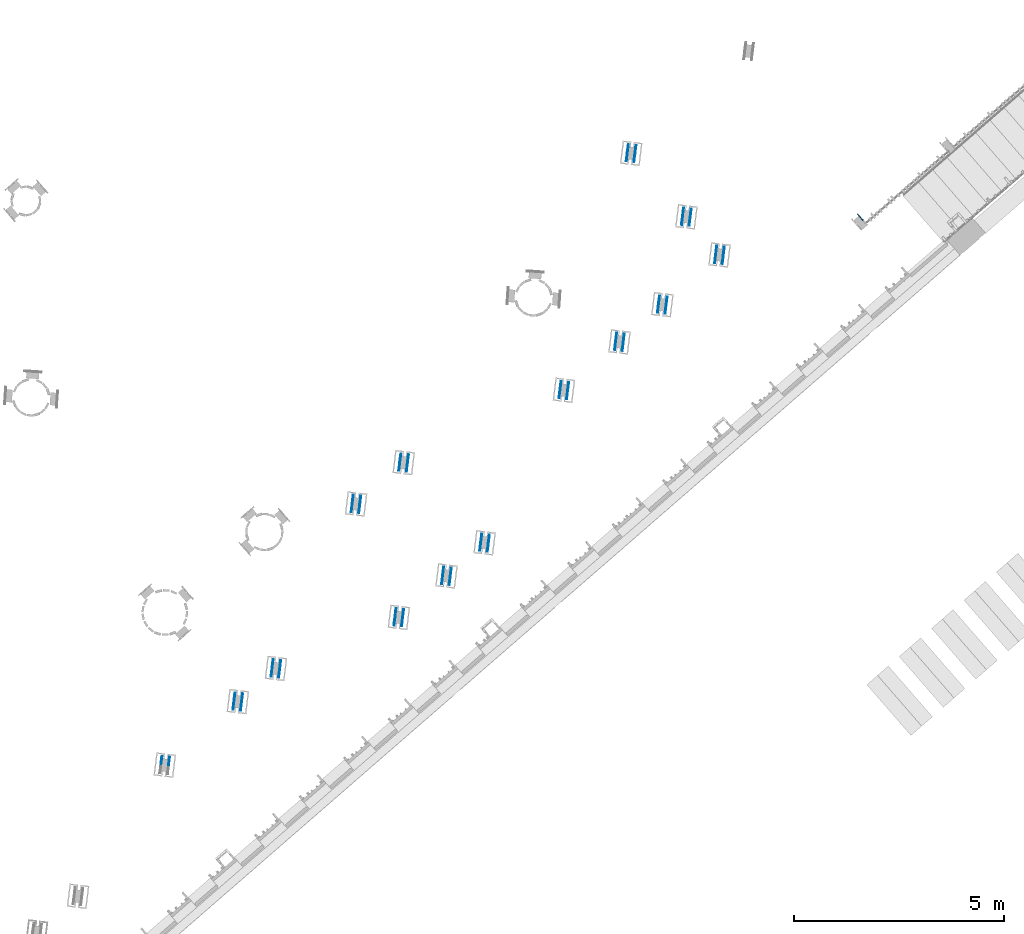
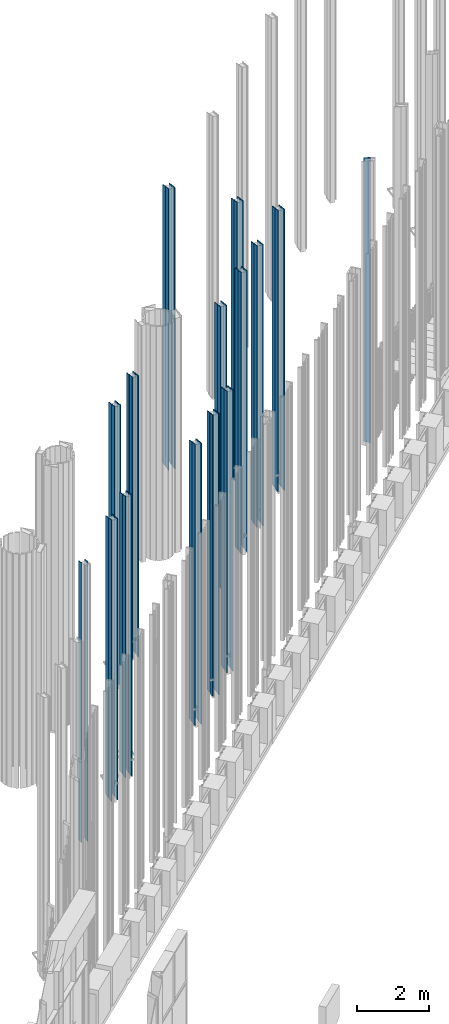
# One storey, part 47 of 390: 55 discrete accessories.
"""IFC2X3 building model written with IfcOpenShell, lengths in millimetres."""

from ifc_helpers import new_model, entity, si_unit, converted_unit, derived_unit, money_unit, direction, frame, origin_with_axes, place, context, subcontext, project, spatial, faceted_brep, source, transform, mapped, material, type_object, element, save


model = new_model("IFC2X3")

# Units and contexts
model_context = context("Model", 3, precision=1e-05, world=origin_with_axes(), true_north=direction((0.0, 1.0)))
body_context = subcontext(model_context, "Body", "Model", "MODEL_VIEW")
ifc_project = project(units=[si_unit("LENGTHUNIT", "METRE", prefix="MILLI"), si_unit("AREAUNIT", "SQUARE_METRE"), si_unit("VOLUMEUNIT", "CUBIC_METRE"), converted_unit("PLANEANGLEUNIT", "DEGREE", entity("IfcPlaneAngleMeasure", 0.0174532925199), si_unit("PLANEANGLEUNIT", "RADIAN"), dimensions=[0, 0, 0, 0, 0, 0, 0]), si_unit("SOLIDANGLEUNIT", "STERADIAN"), money_unit("EUR"), converted_unit("TIMEUNIT", "Year", entity("IfcTimeMeasure", 31556926.0), si_unit("TIMEUNIT", "SECOND"), dimensions=[0, 0, 1, 0, 0, 0, 0]), si_unit("MASSUNIT", "GRAM", prefix="KILO"), si_unit("THERMODYNAMICTEMPERATUREUNIT", "DEGREE_CELSIUS"), si_unit("LUMINOUSINTENSITYUNIT", "LUMEN"), si_unit("ENERGYUNIT", "JOULE", prefix="MEGA"), derived_unit("THERMALCONDUCTANCEUNIT", [(si_unit("POWERUNIT", "WATT"), 1), (si_unit("LENGTHUNIT", "METRE"), -1), (si_unit("THERMODYNAMICTEMPERATUREUNIT", "KELVIN"), -1)]), derived_unit("SPECIFICHEATCAPACITYUNIT", [(si_unit("ENERGYUNIT", "JOULE"), 1), (si_unit("MASSUNIT", "GRAM", prefix="KILO"), -1), (si_unit("THERMODYNAMICTEMPERATUREUNIT", "KELVIN"), -1)]), derived_unit("MASSDENSITYUNIT", [(si_unit("MASSUNIT", "GRAM", prefix="KILO"), 1), (si_unit("VOLUMEUNIT", "CUBIC_METRE"), -1)])], contexts=[model_context])

# Site, building, storey
site_placement = place(None, origin_with_axes())
site = spatial("IfcSite", under=ifc_project, at=site_placement, Name="Site", CompositionType="ELEMENT")
building_placement = place(site_placement, origin_with_axes())
building = spatial("IfcBuilding", under=site, at=building_placement, Name="Building", CompositionType="ELEMENT")
storey_placement = place(building_placement, origin_with_axes())
storey = spatial("IfcBuildingStorey", under=building, at=storey_placement, Name="1 korrus", CompositionType="ELEMENT", Elevation=0.0)

# Discrete accessories
ifc_material = material(Name="GENEERILINE - VÄLINE VOODER")
discrete_accessory_type = type_object("IfcDiscreteAccessoryType", Name="GENEERILINE - VÄLINE VOODER")
shared_shape_1 = source(origin_with_axes(), body_context, "Body", "Brep", [
    faceted_brep([(162190.360855, 119453.798876, 100.0), (162190.360855, 119453.798876, 9600.0), (162168.524839, 119456.480002, 9600.0), (162168.524839, 119456.480002, 100.0), (162214.734723, 119652.308107, 100.0), (162214.734723, 119652.308107, 9546.41016151), (162192.898708, 119654.989232, 9546.41016151), (162192.898708, 119654.989232, 100.0)], [[[0, 1, 2, 3]], [[1, 0, 4, 5]], [[2, 1, 5, 6]], [[3, 2, 6, 7]], [[0, 3, 7, 4]], [[7, 6, 5, 4]]]),
])
for number, where, z_axis, x_axis in (
    (1, (-16876.3828241, -17320.4417606, 0.0), (0.0, 0.0, 1.0), (1.0, 0.0, 0.0)),
    (2, (-9598.60959974, -12583.985607, 0.0), (0.0, 0.0, 1.0), (1.0, 0.0, 0.0)),
    (3, (-10617.467533, -13469.6652962, 0.0), (0.0, 0.0, 1.0), (1.0, 0.0, 0.0)),
    (4, (-8240.13235544, -11403.0793547, 0.0), (0.0, 0.0, 1.0), (1.0, 0.0, 0.0)),
    (5, (-18779.9207954, -21227.6841631, 0.0), (0.0, 0.0, 1.0), (1.0, 0.0, 0.0)),
    (6, (-19685.5722916, -22014.954998, 0.0), (0.0, 0.0, 1.0), (1.0, 0.0, 0.0)),
    (7, (-13822.0171594, -18242.8572777, 0.0), (0.0, 0.0, 1.0), (1.0, 0.0, 0.0)),
    (8, (-15744.3184538, -16336.353217, 0.0), (0.0, 0.0, 1.0), (1.0, 0.0, 0.0)),
    (9, (-11938.2092983, -14617.768597, 0.0), (0.0, 0.0, 1.0), (1.0, 0.0, 0.0)),
    (10, (-14727.6686556, -19030.1281126, 0.0), (0.0, 0.0, 1.0), (1.0, 0.0, 0.0)),
    (11, (-15859.7330258, -20014.2166562, 0.0), (0.0, 0.0, 1.0), (1.0, 0.0, 0.0)),
    (12, (-9027.40319042, -10497.4278583, 0.0), (0.0, 0.0, 1.0), (1.0, 0.0, 0.0)),
    (13, (-10339.5212483, -8988.00869803, 0.0), (0.0, 0.0, 1.0), (1.0, 0.0, 0.0)),
):
    element("IfcDiscreteAccessory", number, at=place(storey_placement, frame(where, z_axis=z_axis, x_axis=x_axis)), inside=storey, type_object=discrete_accessory_type, material=ifc_material, Name="Päikesevarjestuspost", context=body_context, shape_type="MappedRepresentation", body=[
        mapped(shared_shape_1, transform((0.0, 0.0, 0.0))),
    ])
shared_shape_2 = source(origin_with_axes(), body_context, "Body", "Brep", [
    faceted_brep([(162194.117401, 119664.914694, 100.0), (162215.953417, 119662.233568, 100.0), (162215.953417, 119662.233568, 9543.73066959), (162194.117401, 119664.914694, 9543.73066959), (162218.49127, 119863.423924, 100.0), (162240.327285, 119860.742798, 100.0), (162240.327285, 119860.742798, 9490.1408311), (162218.49127, 119863.423924, 9490.1408311)], [[[0, 1, 2, 3]], [[1, 0, 4, 5]], [[2, 1, 5, 6]], [[3, 2, 6, 7]], [[0, 3, 7, 4]], [[4, 7, 6, 5]]]),
])
for number, where, z_axis, x_axis in (
    (14, (-16876.3828241, -17320.4417606, 0.0), (0.0, 0.0, 1.0), (1.0, 0.0, 0.0)),
    (15, (-9598.60959974, -12583.985607, 0.0), (0.0, 0.0, 1.0), (1.0, 0.0, 0.0)),
    (16, (-10617.467533, -13469.6652962, 0.0), (0.0, 0.0, 1.0), (1.0, 0.0, 0.0)),
    (17, (-8240.13235544, -11403.0793547, 0.0), (0.0, 0.0, 1.0), (1.0, 0.0, 0.0)),
    (18, (-18779.9207954, -21227.6841631, 0.0), (0.0, 0.0, 1.0), (1.0, 0.0, 0.0)),
    (19, (-19685.5722916, -22014.954998, 0.0), (0.0, 0.0, 1.0), (1.0, 0.0, 0.0)),
    (20, (-21421.4043259, -23523.8907648, 0.0), (0.0, 0.0, 1.0), (1.0, 0.0, 0.0)),
    (21, (-13822.0171594, -18242.8572777, 0.0), (0.0, 0.0, 1.0), (1.0, 0.0, 0.0)),
    (22, (-15744.3184538, -16336.353217, 0.0), (0.0, 0.0, 1.0), (1.0, 0.0, 0.0)),
    (23, (-11938.2092983, -14617.768597, 0.0), (0.0, 0.0, 1.0), (1.0, 0.0, 0.0)),
    (24, (-14727.6686556, -19030.1281126, 0.0), (0.0, 0.0, 1.0), (1.0, 0.0, 0.0)),
    (25, (-15859.7330258, -20014.2166562, 0.0), (0.0, 0.0, 1.0), (1.0, 0.0, 0.0)),
    (26, (-9027.40319042, -10497.4278583, 0.0), (0.0, 0.0, 1.0), (1.0, 0.0, 0.0)),
    (27, (-10339.5212483, -8988.00869803, 0.0), (0.0, 0.0, 1.0), (1.0, 0.0, 0.0)),
):
    element("IfcDiscreteAccessory", number, at=place(storey_placement, frame(where, z_axis=z_axis, x_axis=x_axis)), inside=storey, type_object=discrete_accessory_type, material=ifc_material, Name="Päikesevarjestuspost", context=body_context, shape_type="MappedRepresentation", body=[
        mapped(shared_shape_2, transform((0.0, 0.0, 0.0))),
    ])
shared_shape_3 = source(origin_with_axes(), body_context, "Body", "Brep", [
    faceted_brep([(-162194.117401, 119664.914694, 100.0), (-162194.117401, 119664.914694, 9543.73066959), (-162215.953417, 119662.233568, 9543.73066959), (-162215.953417, 119662.233568, 100.0), (-162218.49127, 119863.423924, 100.0), (-162218.49127, 119863.423924, 9490.1408311), (-162240.327285, 119860.742798, 9490.1408311), (-162240.327285, 119860.742798, 100.0)], [[[0, 1, 2, 3]], [[0, 4, 5, 1]], [[1, 5, 6, 2]], [[2, 6, 7, 3]], [[3, 7, 4, 0]], [[4, 7, 6, 5]]]),
])
for number, where, z_axis, x_axis in (
    (28, (280205.825252, -49178.2755764, 0.0), (0.0, 0.0, 1.0), (0.970295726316, -0.241921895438, 0.0)),
    (29, (281224.683185, -48292.5958872, 0.0), (0.0, 0.0, 1.0), (0.970295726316, -0.241921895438, 0.0)),
    (30, (282583.160429, -47111.6896349, 0.0), (0.0, 0.0, 1.0), (0.970295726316, -0.241921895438, 0.0)),
    (31, (272043.371989, -56936.2944434, 0.0), (0.0, 0.0, 1.0), (0.970295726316, -0.241921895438, 0.0)),
    (32, (271137.720493, -57723.5652782, 0.0), (0.0, 0.0, 1.0), (0.970295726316, -0.241921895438, 0.0)),
    (33, (269401.888459, -59232.5010451, 0.0), (0.0, 0.0, 1.0), (0.970295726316, -0.241921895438, 0.0)),
    (34, (275078.974331, -52044.9634973, 0.0), (0.0, 0.0, 1.0), (0.970295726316, -0.241921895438, 0.0)),
    (35, (277001.275625, -53951.467558, 0.0), (0.0, 0.0, 1.0), (0.970295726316, -0.241921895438, 0.0)),
    (36, (273946.909961, -53029.0520409, 0.0), (0.0, 0.0, 1.0), (0.970295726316, -0.241921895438, 0.0)),
    (37, (276095.624129, -54738.7383928, 0.0), (0.0, 0.0, 1.0), (0.970295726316, -0.241921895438, 0.0)),
    (38, (274963.559759, -55722.8269364, 0.0), (0.0, 0.0, 1.0), (0.970295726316, -0.241921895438, 0.0)),
    (39, (278885.083486, -50326.3788773, 0.0), (0.0, 0.0, 1.0), (0.970295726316, -0.241921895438, 0.0)),
    (40, (281795.889594, -46206.0381385, 0.0), (0.0, 0.0, 1.0), (0.970295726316, -0.241921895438, 0.0)),
    (41, (280483.771536, -44696.6189783, 0.0), (0.0, 0.0, 1.0), (0.970295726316, -0.241921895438, 0.0)),
):
    element("IfcDiscreteAccessory", number, at=place(storey_placement, frame(where, z_axis=z_axis, x_axis=x_axis)), inside=storey, type_object=discrete_accessory_type, material=ifc_material, Name="Päikesevarjestuspost", context=body_context, shape_type="MappedRepresentation", body=[
        mapped(shared_shape_3, transform((0.0, 0.0, 0.0))),
    ])
shared_shape_4 = source(origin_with_axes(), body_context, "Body", "Brep", [
    faceted_brep([(-162190.360855, 119453.798876, 100.0), (-162168.524839, 119456.480002, 100.0), (-162168.524839, 119456.480002, 9600.0), (-162190.360855, 119453.798876, 9600.0), (-162214.734723, 119652.308107, 100.0), (-162192.898708, 119654.989232, 100.0), (-162192.898708, 119654.989232, 9546.41016151), (-162214.734723, 119652.308107, 9546.41016151)], [[[0, 1, 2, 3]], [[0, 4, 5, 1]], [[1, 5, 6, 2]], [[2, 6, 7, 3]], [[3, 7, 4, 0]], [[5, 4, 7, 6]]]),
])
for number, where, z_axis, x_axis in (
    (42, (280205.825252, -49178.2755764, 0.0), (0.0, 0.0, 1.0), (0.970295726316, -0.241921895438, 0.0)),
    (43, (281224.683185, -48292.5958872, 0.0), (0.0, 0.0, 1.0), (0.970295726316, -0.241921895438, 0.0)),
    (44, (282583.160429, -47111.6896349, 0.0), (0.0, 0.0, 1.0), (0.970295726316, -0.241921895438, 0.0)),
    (45, (272043.371989, -56936.2944434, 0.0), (0.0, 0.0, 1.0), (0.970295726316, -0.241921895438, 0.0)),
    (46, (271137.720493, -57723.5652782, 0.0), (0.0, 0.0, 1.0), (0.970295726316, -0.241921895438, 0.0)),
    (47, (275078.974331, -52044.9634973, 0.0), (0.0, 0.0, 1.0), (0.970295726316, -0.241921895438, 0.0)),
    (48, (277001.275625, -53951.467558, 0.0), (0.0, 0.0, 1.0), (0.970295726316, -0.241921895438, 0.0)),
    (49, (273946.909961, -53029.0520409, 0.0), (0.0, 0.0, 1.0), (0.970295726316, -0.241921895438, 0.0)),
    (50, (276095.624129, -54738.7383928, 0.0), (0.0, 0.0, 1.0), (0.970295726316, -0.241921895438, 0.0)),
    (51, (274963.559759, -55722.8269364, 0.0), (0.0, 0.0, 1.0), (0.970295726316, -0.241921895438, 0.0)),
    (52, (278885.083486, -50326.3788773, 0.0), (0.0, 0.0, 1.0), (0.970295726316, -0.241921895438, 0.0)),
    (53, (281795.889594, -46206.0381385, 0.0), (0.0, 0.0, 1.0), (0.970295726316, -0.241921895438, 0.0)),
    (54, (280483.771536, -44696.6189783, 0.0), (0.0, 0.0, 1.0), (0.970295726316, -0.241921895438, 0.0)),
):
    element("IfcDiscreteAccessory", number, at=place(storey_placement, frame(where, z_axis=z_axis, x_axis=x_axis)), inside=storey, type_object=discrete_accessory_type, material=ifc_material, Name="Päikesevarjestuspost", context=body_context, shape_type="MappedRepresentation", body=[
        mapped(shared_shape_4, transform((0.0, 0.0, 0.0))),
    ])
shared_shape_5 = source(origin_with_axes(), body_context, "Body", "Brep", [
    faceted_brep([(-162240.327285, 119860.742798, 9490.1408311), (-162240.327285, 119860.742798, -78.0534808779), (-162215.953417, 119662.233568, -78.0534808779), (-162215.953417, 119662.233568, 9543.73066959), (-162218.49127, 119863.423924, -78.0534808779), (-162218.49127, 119863.423924, 9490.1408311), (-162194.117401, 119664.914694, -78.0534808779), (-162194.117401, 119664.914694, 9543.73066959)], [[[0, 1, 2, 3]], [[4, 1, 0, 5]], [[1, 4, 6, 2]], [[2, 6, 7, 3]], [[5, 0, 3, 7]], [[6, 4, 5, 7]]]),
])
discrete_accessory_placement = place(storey_placement, frame((358853.406659, 100566.859517, 0.0), z_axis=(0.0, 0.0, 1.0), x_axis=(0.829037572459, 0.559192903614, 0.0)))
element("IfcDiscreteAccessory", 55, at=discrete_accessory_placement, inside=storey, type_object=discrete_accessory_type, material=ifc_material, Name="Päikesevarjestuspost", context=body_context, shape_type="MappedRepresentation", body=[
    mapped(shared_shape_5, transform((0.0, 0.0, 0.0))),
])

save(model, "model.ifc")
